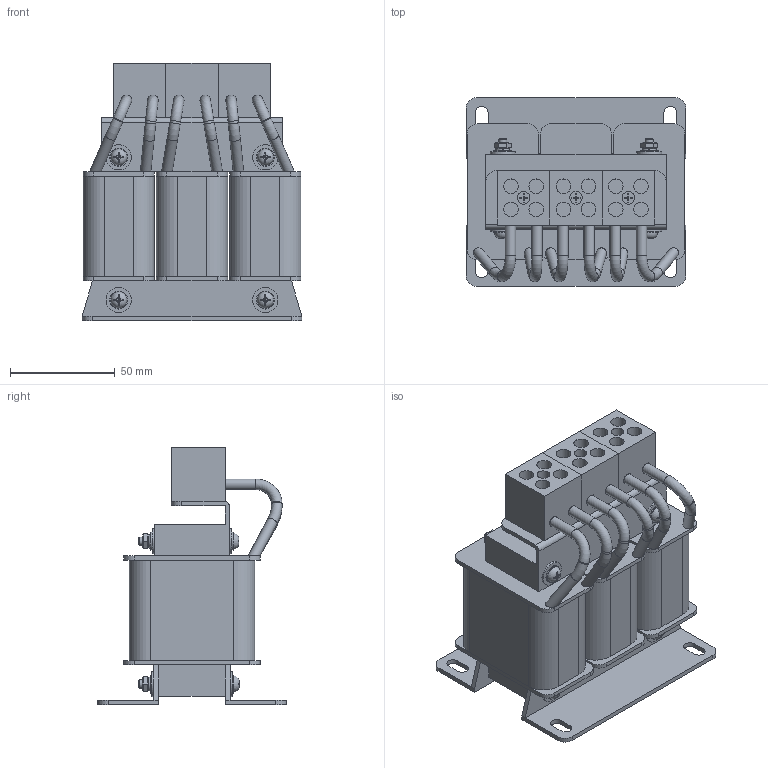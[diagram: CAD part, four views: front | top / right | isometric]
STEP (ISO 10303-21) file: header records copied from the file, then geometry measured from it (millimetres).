
FILE_DESCRIPTION(('STEP AP203'), '1');
FILE_NAME('栖闉罻 _ IMF-5.5_13-4', '', ('UNSPECIFIED'), ('UNSPECIFIED'), 'ASCON STEP Converter 1.6', 'ASCON Math Kernel', '');
FILE_SCHEMA(('CONFIG_CONTROL_DESIGN'));
Length unit declared in the file: millimetre
Products named in the file (13): IMF-5.5_13-4
Assembly tree (45 placements, depth 2):
  IMF-5.5_13-4
    IMF-5.5_13-4
    IMF-5.5_13-4  x2
    IMF-5.5_13-4  x6
    IMF-5.5_13-4  x3
    IMF-5.5_13-4
    IMF-5.5_13-4  x3
    IMF-5.5_13-4  x8
    IMF-5.5_13-4  x8
    IMF-5.5_13-4  x4
    IMF-5.5_13-4  x4
    IMF-5.5_13-4  x4
    IMF-5.5_13-4
Bounding box: 105 x 90 x 123.2 mm (x, y, z)
Volume: 475181.3 mm3; surface area: 140678.9 mm2
Topology: 50 solids, 50 shells, 609 faces, 1355 edges, 874 vertices
Faces by surface type: plane 440, cylinder 133, torus 24, cone 12
Full cylindrical faces by diameter (mm): 4 x32, 5 x18, 6 x3, 7 x12, 8.6 x8, 12 x8
Entity records: 7580 total; most frequent: CARTESIAN_POINT 1414, DIRECTION 1030, ORIENTED_EDGE 842, EDGE_CURVE 421, AXIS2_PLACEMENT_3D 372, VERTEX_POINT 301, EDGE_LOOP 300, LINE 286
